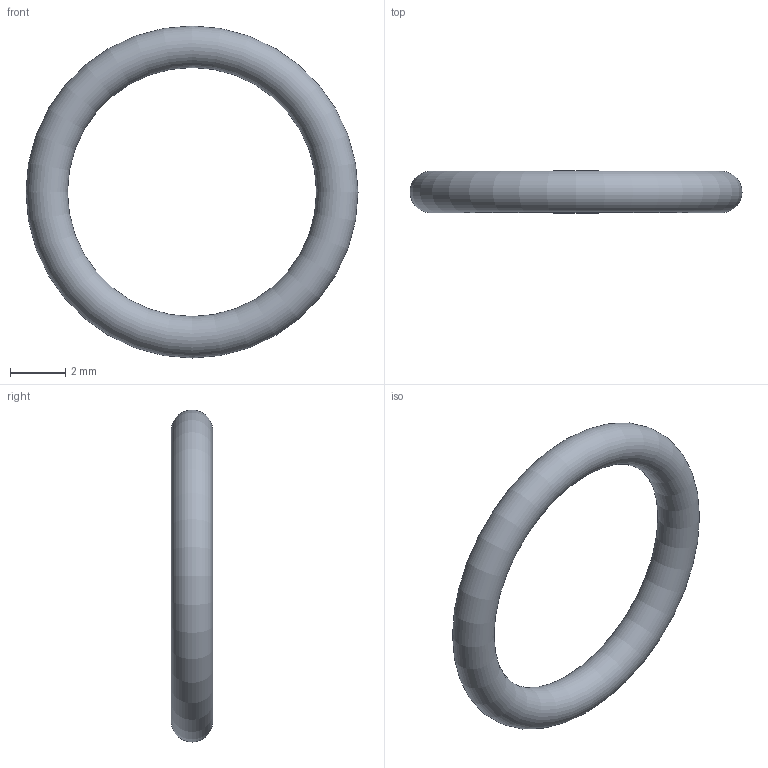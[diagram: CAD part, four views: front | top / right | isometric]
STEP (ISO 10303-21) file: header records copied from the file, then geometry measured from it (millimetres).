
FILE_DESCRIPTION( ( 'STEP AP203' ), '1' );
FILE_NAME( 'C:/Temp/Ganter_Step_05_03_2020/data/3_5/or638/O-Ring OR638-9.00-1.50-70.stp', '2020-03-12T13:44:17', ( 'License CC BY-ND 4.0' ), ( 'CADENAS' ), ' ', 'PARTsolutions', ' ' );
FILE_SCHEMA( ( 'CONFIG_CONTROL_DESIGN' ) );
Length unit declared in the file: millimetre
Products named in the file (1): _O-Ring OR638-9.00-1.50-70
Bounding box: 12 x 1.5 x 12 mm (x, y, z)
Volume: 58.3 mm3; surface area: 155.4 mm2
Topology: 1 solids, 1 shells, 1 faces, 2 edges, 1 vertices
Faces by surface type: torus 1
Entity records: 62 total; most frequent: CC_DESIGN_PERSON_AND_ORGANIZATION_ASSIGNMENT 5, PERSON_AND_ORGANIZATION_ROLE 4, DIRECTION 4, CARTESIAN_POINT 3, DATE_TIME_ROLE 2, CC_DESIGN_DATE_AND_TIME_ASSIGNMENT 2, AXIS2_PLACEMENT_3D 2, DIMENSIONAL_EXPONENTS 2
